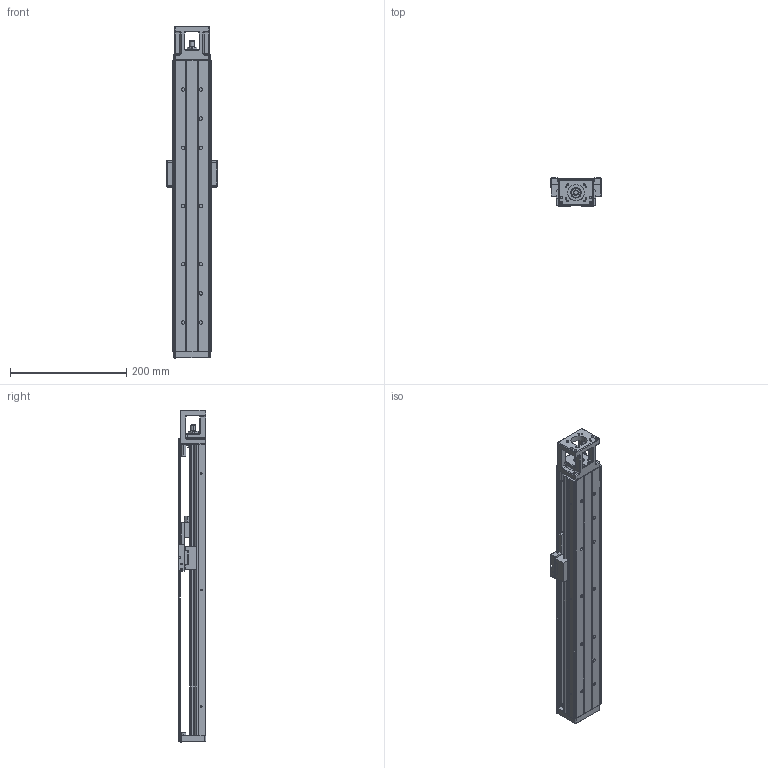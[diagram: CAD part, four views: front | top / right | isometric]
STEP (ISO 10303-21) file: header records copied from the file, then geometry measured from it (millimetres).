
FILE_DESCRIPTION (( 'STEP AP203' ), '1' );
FILE_NAME ('hkk60-500a1f0c.STEP', '2019-10-31T03:12:47', ( '微软用户' ), ( '微软中国' ), 'SwSTEP 2.0', 'SolidWorks 2016', '' );
FILE_SCHEMA (( 'CONFIG_CONTROL_DESIGN' ));
Length unit declared in the file: millimetre
Products named in the file (3): hkk60賑怢_8; hkk60-500a1f0c; hkk60-300_8
Assembly tree (2 placements, depth 2):
  hkk60-500a1f0c
    hkk60-300_8
    hkk60賑怢_8
Bounding box: 86 x 48 x 570 mm (x, y, z)
Volume: 804563.9 mm3; surface area: 277404.7 mm2
Topology: 41 solids, 49 shells, 1527 faces, 3935 edges, 2431 vertices
Faces by surface type: cylinder 562, plane 511, cone 221, bspline 85, sphere 76, torus 72
Entity records: 64649 total; most frequent: CARTESIAN_POINT 28737, ORIENTED_EDGE 7486, DIRECTION 7166, EDGE_CURVE 3743, AXIS2_PLACEMENT_3D 2649, VERTEX_POINT 2383, VECTOR 1868, LINE 1868
